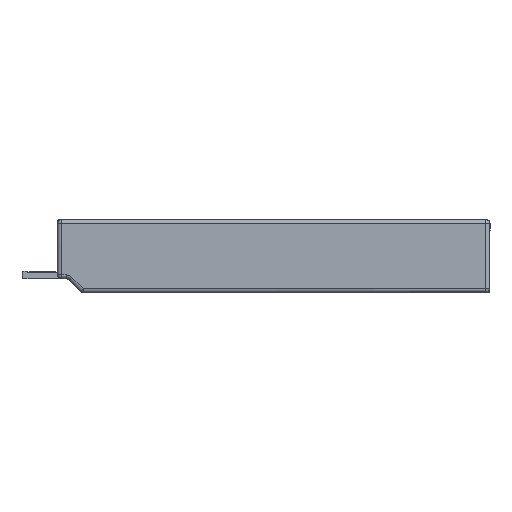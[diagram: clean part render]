
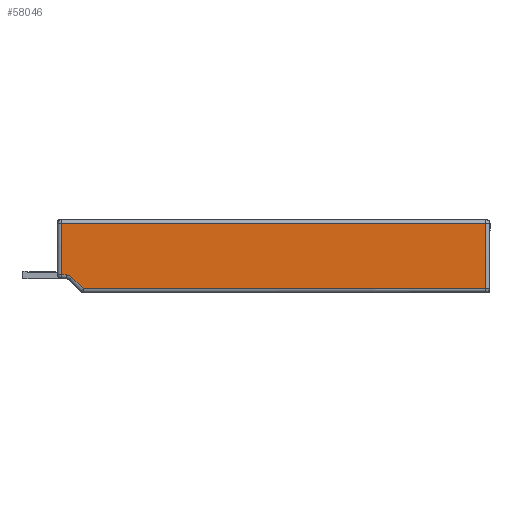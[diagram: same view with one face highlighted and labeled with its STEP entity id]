
A CAD part, left-side view. The second image highlights one B-rep face of the part: STEP entity #58046.
In plain terms, the highlighted planar face has unit normal (-1, 0, 0).
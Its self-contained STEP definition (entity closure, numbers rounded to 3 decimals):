
#314 = VECTOR ( 'NONE', #28990, 1000. ) ;
#1575 = DIRECTION ( 'NONE',  ( 0., -1., 0. ) ) ;
#1576 = CARTESIAN_POINT ( 'NONE',  ( -120.434, 64.342, -8.291 ) ) ;
#1585 = LINE ( 'NONE', #1576, #65056 ) ;
#1898 = CARTESIAN_POINT ( 'NONE',  ( -120.434, -44.649, 8.291 ) ) ;
#2000 = CARTESIAN_POINT ( 'NONE',  ( -120.434, 60.664, -5.38 ) ) ;
#2740 = CARTESIAN_POINT ( 'NONE',  ( -120.434, -44.649, -8.291 ) ) ;
#2923 = CARTESIAN_POINT ( 'NONE',  ( -120.434, 63.333, -4.791 ) ) ;
#3328 = CARTESIAN_POINT ( 'NONE',  ( -120.434, 63.333, 8.291 ) ) ;
#3446 = CARTESIAN_POINT ( 'NONE',  ( -120.434, 57.753, -8.291 ) ) ;
#3460 = CARTESIAN_POINT ( 'NONE',  ( -120.434, 62.085, -4.791 ) ) ;
#10717 = VERTEX_POINT ( 'NONE', #3446 ) ;
#10736 = VERTEX_POINT ( 'NONE', #3328 ) ;
#10801 = VERTEX_POINT ( 'NONE', #2923 ) ;
#10832 = VERTEX_POINT ( 'NONE', #2740 ) ;
#11167 = VERTEX_POINT ( 'NONE', #3460 ) ;
#18561 = VECTOR ( 'NONE', #55875, 1000. ) ;
#19389 = VECTOR ( 'NONE', #60577, 1000. ) ;
#19847 = AXIS2_PLACEMENT_3D ( 'NONE', #60244, #60245, #60248 ) ;
#20871 = CIRCLE ( 'NONE', #19847, 2.009 ) ;
#23148 = LINE ( 'NONE', #23150, #48328 ) ;
#23150 = CARTESIAN_POINT ( 'NONE',  ( -120.434, -44.649, -9.3 ) ) ;
#23151 = DIRECTION ( 'NONE',  ( 0., 0., 1. ) ) ;
#26974 = EDGE_LOOP ( 'NONE', ( #57585, #57099, #57110, #61726, #57015, #61926, #61745 ) ) ;
#27523 = VERTEX_POINT ( 'NONE', #2000 ) ;
#27689 = VERTEX_POINT ( 'NONE', #1898 ) ;
#28988 = LINE ( 'NONE', #28989, #314 ) ;
#28989 = CARTESIAN_POINT ( 'NONE',  ( -120.434, 64.342, 8.291 ) ) ;
#28990 = DIRECTION ( 'NONE',  ( 0., 1., 0. ) ) ;
#29767 = EDGE_CURVE ( 'NONE', #10717, #10832, #1585, .T. ) ;
#30025 = EDGE_CURVE ( 'NONE', #27689, #10736, #28988, .T. ) ;
#30370 = EDGE_CURVE ( 'NONE', #27523, #10717, #49600, .T. ) ;
#30593 = EDGE_CURVE ( 'NONE', #10832, #27689, #23148, .T. ) ;
#30713 = EDGE_CURVE ( 'NONE', #11167, #27523, #20871, .T. ) ;
#30734 = EDGE_CURVE ( 'NONE', #10801, #11167, #60569, .T. ) ;
#31338 = EDGE_CURVE ( 'NONE', #10736, #10801, #55873, .T. ) ;
#33827 = AXIS2_PLACEMENT_3D ( 'NONE', #39512, #39513, #39514 ) ;
#39502 = FACE_OUTER_BOUND ( 'NONE', #26974, .T. ) ;
#39503 = PLANE ( 'NONE',  #33827 ) ;
#39512 = CARTESIAN_POINT ( 'NONE',  ( -120.434, 64.342, -9.3 ) ) ;
#39513 = DIRECTION ( 'NONE',  ( -1., 0., 0. ) ) ;
#39514 = DIRECTION ( 'NONE',  ( 0., -1., 0. ) ) ;
#47311 = VECTOR ( 'NONE', #49631, 1000. ) ;
#48328 = VECTOR ( 'NONE', #23151, 1000. ) ;
#49600 = LINE ( 'NONE', #49624, #47311 ) ;
#49624 = CARTESIAN_POINT ( 'NONE',  ( -120.434, 58.454, -7.59 ) ) ;
#49631 = DIRECTION ( 'NONE',  ( 0., -0.707, -0.707 ) ) ;
#55873 = LINE ( 'NONE', #55874, #18561 ) ;
#55874 = CARTESIAN_POINT ( 'NONE',  ( -120.434, 63.333, -9.3 ) ) ;
#55875 = DIRECTION ( 'NONE',  ( 0., 0., -1. ) ) ;
#57015 = ORIENTED_EDGE ( 'NONE', *, *, #30025, .T. ) ;
#57099 = ORIENTED_EDGE ( 'NONE', *, *, #30370, .T. ) ;
#57110 = ORIENTED_EDGE ( 'NONE', *, *, #29767, .T. ) ;
#57585 = ORIENTED_EDGE ( 'NONE', *, *, #30713, .T. ) ;
#58046 = ADVANCED_FACE ( 'NONE', ( #39502 ), #39503, .T. ) ;
#60244 = CARTESIAN_POINT ( 'NONE',  ( -120.434, 62.085, -6.8 ) ) ;
#60245 = DIRECTION ( 'NONE',  ( 1., 0., 0. ) ) ;
#60248 = DIRECTION ( 'NONE',  ( 0., -1., 0. ) ) ;
#60569 = LINE ( 'NONE', #60574, #19389 ) ;
#60574 = CARTESIAN_POINT ( 'NONE',  ( -120.434, 62.085, -4.791 ) ) ;
#60577 = DIRECTION ( 'NONE',  ( 0., -1., 0. ) ) ;
#61726 = ORIENTED_EDGE ( 'NONE', *, *, #30593, .T. ) ;
#61745 = ORIENTED_EDGE ( 'NONE', *, *, #30734, .T. ) ;
#61926 = ORIENTED_EDGE ( 'NONE', *, *, #31338, .T. ) ;
#65056 = VECTOR ( 'NONE', #1575, 1000. ) ;
